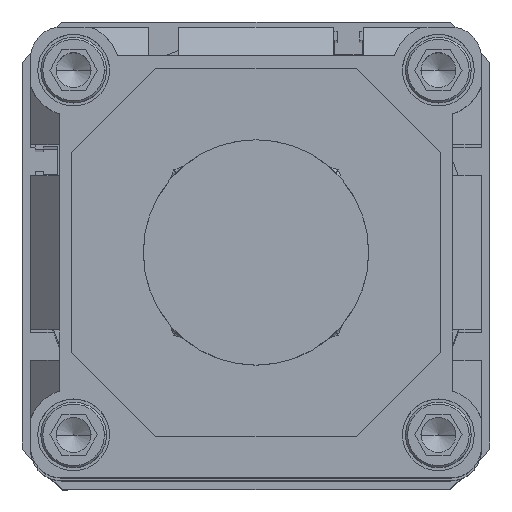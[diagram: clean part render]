
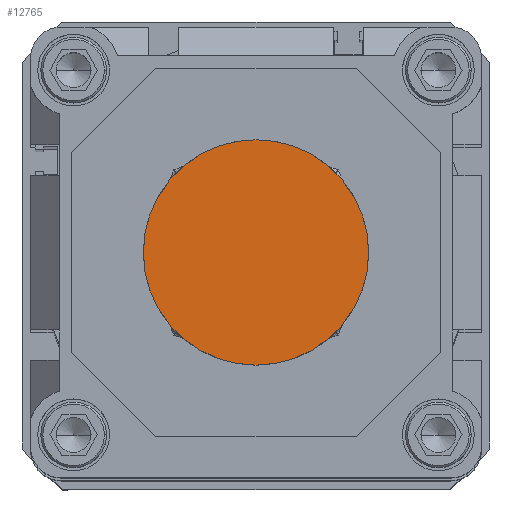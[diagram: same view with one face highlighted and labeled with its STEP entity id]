
A CAD part, top view. The second image highlights one B-rep face of the part: STEP entity #12765.
In plain terms, the highlighted planar face has unit normal (0, 0, 1).
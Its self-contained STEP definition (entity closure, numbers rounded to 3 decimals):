
#667 = CARTESIAN_POINT ( 'NONE',  ( 0., 0., 304. ) ) ;
#724 = AXIS2_PLACEMENT_3D ( 'NONE', #667, #6765, #4932 ) ;
#2085 = CARTESIAN_POINT ( 'NONE',  ( 0., 0., 304. ) ) ;
#2731 = CARTESIAN_POINT ( 'NONE',  ( -27.5, 0., 304. ) ) ;
#3406 = CIRCLE ( 'NONE', #19520, 27.5 ) ;
#4710 = CARTESIAN_POINT ( 'NONE',  ( 0., 0., 304. ) ) ;
#4932 = DIRECTION ( 'NONE',  ( 1., 0., 0. ) ) ;
#6765 = DIRECTION ( 'NONE',  ( 0., 0., 1. ) ) ;
#8338 = FACE_OUTER_BOUND ( 'NONE', #13370, .T. ) ;
#8777 = VERTEX_POINT ( 'NONE', #21080 ) ;
#9095 = DIRECTION ( 'NONE',  ( 0., 0., 1. ) ) ;
#12765 = ADVANCED_FACE ( 'NONE', ( #8338 ), #23771, .T. ) ;
#13145 = EDGE_CURVE ( 'NONE', #21783, #8777, #3406, .T. ) ;
#13317 = DIRECTION ( 'NONE',  ( 1., 0., 0. ) ) ;
#13370 = EDGE_LOOP ( 'NONE', ( #14559, #22360 ) ) ;
#14559 = ORIENTED_EDGE ( 'NONE', *, *, #13145, .T. ) ;
#16750 = DIRECTION ( 'NONE',  ( 1., 0., 0. ) ) ;
#17774 = CIRCLE ( 'NONE', #724, 27.5 ) ;
#19520 = AXIS2_PLACEMENT_3D ( 'NONE', #2085, #24860, #16750 ) ;
#21080 = CARTESIAN_POINT ( 'NONE',  ( 27.5, 0., 304. ) ) ;
#21783 = VERTEX_POINT ( 'NONE', #2731 ) ;
#21839 = EDGE_CURVE ( 'NONE', #8777, #21783, #17774, .T. ) ;
#22360 = ORIENTED_EDGE ( 'NONE', *, *, #21839, .T. ) ;
#23771 = PLANE ( 'NONE',  #26199 ) ;
#24860 = DIRECTION ( 'NONE',  ( 0., 0., 1. ) ) ;
#26199 = AXIS2_PLACEMENT_3D ( 'NONE', #4710, #9095, #13317 ) ;
